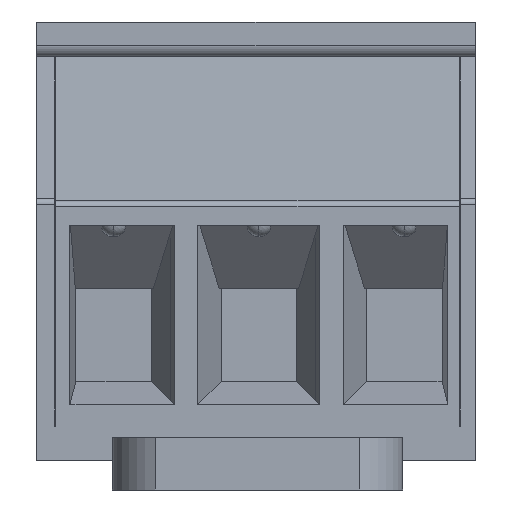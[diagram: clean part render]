
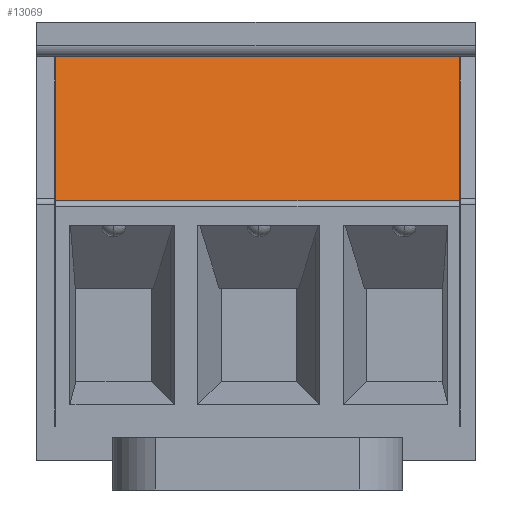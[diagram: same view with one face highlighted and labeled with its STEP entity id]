
A CAD part, front view. The second image highlights one B-rep face of the part: STEP entity #13069.
In plain terms, the highlighted planar face has unit normal (0, -0.986, 0.164).
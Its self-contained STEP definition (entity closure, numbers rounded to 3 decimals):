
#467=DIRECTION('',(-1.,0.,0.));
#468=VECTOR('',#467,13.88);
#469=CARTESIAN_POINT('',(28.89,1.025,-1.2));
#470=LINE('',#469,#468);
#495=DIRECTION('',(0.,-0.164,-0.986));
#496=VECTOR('',#495,5.018);
#497=CARTESIAN_POINT('',(15.01,1.025,-1.2));
#498=LINE('',#497,#496);
#2758=DIRECTION('',(0.,0.164,0.986));
#2759=VECTOR('',#2758,5.018);
#2760=CARTESIAN_POINT('',(28.89,0.2,-6.15));
#2761=LINE('',#2760,#2759);
#2778=DIRECTION('',(1.,0.,0.));
#2779=VECTOR('',#2778,13.88);
#2780=CARTESIAN_POINT('',(15.01,0.2,-6.15));
#2781=LINE('',#2780,#2779);
#7493=CARTESIAN_POINT('',(15.01,1.025,-1.2));
#7495=VERTEX_POINT('',#7493);
#7522=CARTESIAN_POINT('',(28.89,1.025,-1.2));
#7523=VERTEX_POINT('',#7522);
#7564=CARTESIAN_POINT('',(15.01,0.2,-6.15));
#7565=VERTEX_POINT('',#7564);
#7582=CARTESIAN_POINT('',(28.89,0.2,-6.15));
#7583=VERTEX_POINT('',#7582);
#13058=CARTESIAN_POINT('',(5.01,1.,-1.35));
#13059=DIRECTION('',(0.,-0.986,0.164));
#13060=DIRECTION('',(0.,-0.164,-0.986));
#13061=AXIS2_PLACEMENT_3D('',#13058,#13059,#13060);
#13062=PLANE('',#13061);
#13063=ORIENTED_EDGE('',*,*,#13052,.F.);
#13064=ORIENTED_EDGE('',*,*,#9931,.F.);
#13065=ORIENTED_EDGE('',*,*,#9914,.F.);
#13066=ORIENTED_EDGE('',*,*,#13023,.F.);
#13067=EDGE_LOOP('',(#13063,#13064,#13065,#13066));
#13068=FACE_OUTER_BOUND('',#13067,.F.);
#13069=ADVANCED_FACE('',(#13068),#13062,.T.);
#9914=EDGE_CURVE('',#7523,#7495,#470,.T.);
#9931=EDGE_CURVE('',#7495,#7565,#498,.T.);
#13023=EDGE_CURVE('',#7583,#7523,#2761,.T.);
#13052=EDGE_CURVE('',#7565,#7583,#2781,.T.);
